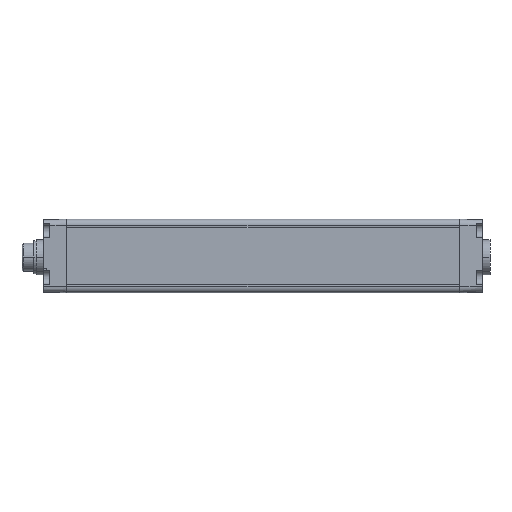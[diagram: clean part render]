
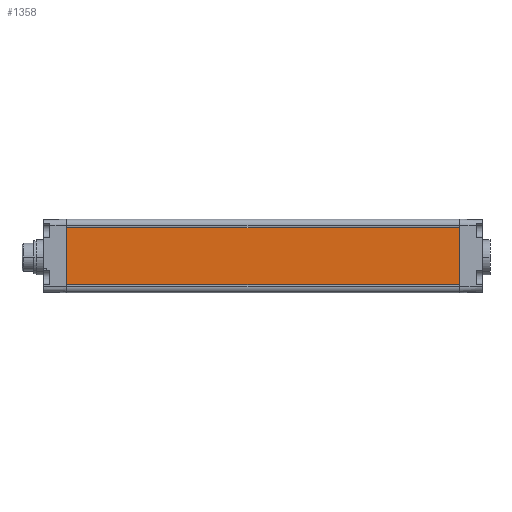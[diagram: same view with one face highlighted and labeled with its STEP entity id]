
A CAD part, front view. The second image highlights one B-rep face of the part: STEP entity #1358.
In plain terms, the highlighted planar face has unit normal (0, -1, 0).
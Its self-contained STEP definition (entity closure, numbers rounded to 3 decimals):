
#1358=ADVANCED_FACE('',(#2280),#1891,.T.);
#1891=PLANE('',#11544);
#2280=FACE_OUTER_BOUND('',#2799,.T.);
#2799=EDGE_LOOP('',(#6075,#6076,#6077,#6078));
#3367=LINE('',#15333,#4540);
#3469=LINE('',#15565,#4642);
#3557=LINE('',#15744,#4730);
#3558=LINE('',#15745,#4731);
#4540=VECTOR('',#12384,1.);
#4642=VECTOR('',#12530,1.);
#4730=VECTOR('',#12720,1.);
#4731=VECTOR('',#12721,1.);
#6075=ORIENTED_EDGE('',*,*,#9717,.T.);
#6076=ORIENTED_EDGE('',*,*,#9926,.T.);
#6077=ORIENTED_EDGE('',*,*,#9834,.F.);
#6078=ORIENTED_EDGE('',*,*,#9927,.F.);
#8724=VERTEX_POINT('',#15332);
#8725=VERTEX_POINT('',#15334);
#8832=VERTEX_POINT('',#15564);
#8833=VERTEX_POINT('',#15566);
#9717=EDGE_CURVE('',#8725,#8724,#3367,.T.);
#9834=EDGE_CURVE('',#8832,#8833,#3469,.T.);
#9926=EDGE_CURVE('',#8724,#8833,#3557,.T.);
#9927=EDGE_CURVE('',#8725,#8832,#3558,.T.);
#11544=AXIS2_PLACEMENT_3D('',#15746,#12722,#12723);
#12384=DIRECTION('',(0.,0.,-1.));
#12530=DIRECTION('',(0.,0.,-1.));
#12720=DIRECTION('',(1.,0.,0.));
#12721=DIRECTION('',(1.,0.,0.));
#12722=DIRECTION('',(0.,-1.,0.));
#12723=DIRECTION('',(0.,0.,1.));
#15332=CARTESIAN_POINT('',(0.,-15.15,-12.));
#15333=CARTESIAN_POINT('',(0.,-15.15,12.));
#15334=CARTESIAN_POINT('',(0.,-15.15,12.));
#15564=CARTESIAN_POINT('',(167.499,-15.15,12.));
#15565=CARTESIAN_POINT('',(167.499,-15.15,0.));
#15566=CARTESIAN_POINT('',(167.499,-15.15,-12.));
#15744=CARTESIAN_POINT('',(0.,-15.15,-12.));
#15745=CARTESIAN_POINT('',(0.,-15.15,12.));
#15746=CARTESIAN_POINT('',(0.,-15.15,15.65));
